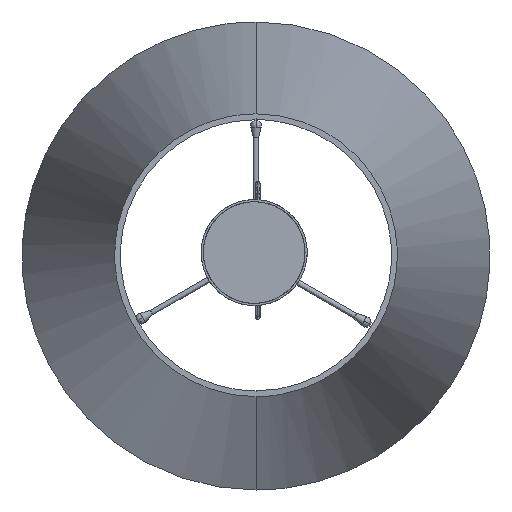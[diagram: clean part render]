
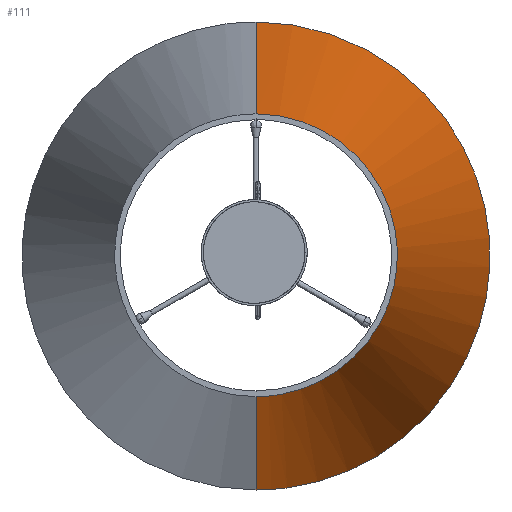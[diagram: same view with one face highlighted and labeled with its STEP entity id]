
A CAD part, top view. The second image highlights one B-rep face of the part: STEP entity #111.
In plain terms, the highlighted free-form (B-spline) face has degree [2, 1] with [5, 2] control points.
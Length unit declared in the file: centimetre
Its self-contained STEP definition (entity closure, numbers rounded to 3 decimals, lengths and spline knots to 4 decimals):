
#111=ADVANCED_FACE('',(#319),#2949,.T.);
#319=FACE_OUTER_BOUND('',#529,.T.);
#529=EDGE_LOOP('',(#836,#837,#838,#839));
#836=ORIENTED_EDGE('',*,*,#1730,.T.);
#837=ORIENTED_EDGE('',*,*,#1728,.T.);
#838=ORIENTED_EDGE('',*,*,#1726,.F.);
#839=ORIENTED_EDGE('',*,*,#1736,.F.);
#1726=EDGE_CURVE('',#2657,#2654,#2422,.T.);
#1728=EDGE_CURVE('',#2655,#2654,#2172,.T.);
#1730=EDGE_CURVE('',#2652,#2655,#2425,.T.);
#1736=EDGE_CURVE('',#2652,#2657,#2174,.T.);
#2172=B_SPLINE_CURVE_WITH_KNOTS('',1,(#3927,#3928),.UNSPECIFIED.,.F.,.F.,
(2,2),(0.,388.772),.UNSPECIFIED.);
#2174=B_SPLINE_CURVE_WITH_KNOTS('',1,(#3961,#3962),.UNSPECIFIED.,.F.,.F.,
(2,2),(0.,388.772),.UNSPECIFIED.);
#2422=(
BOUNDED_CURVE()
B_SPLINE_CURVE(2,(#3917,#3918,#3919,#3920,#3921),.UNSPECIFIED.,.F.,.F.)
B_SPLINE_CURVE_WITH_KNOTS((3,2,3),(-651.8805,-325.9402,
0.),.UNSPECIFIED.)
CURVE()
GEOMETRIC_REPRESENTATION_ITEM()
RATIONAL_B_SPLINE_CURVE((1.,0.707,1.,0.707,1.))
REPRESENTATION_ITEM('')
);
#2425=(
BOUNDED_CURVE()
B_SPLINE_CURVE(2,(#3934,#3935,#3936,#3937,#3938),.UNSPECIFIED.,.F.,.F.)
B_SPLINE_CURVE_WITH_KNOTS((3,2,3),(393.8079,590.7118,787.6158),
 .UNSPECIFIED.)
CURVE()
GEOMETRIC_REPRESENTATION_ITEM()
RATIONAL_B_SPLINE_CURVE((1.,0.707,1.,0.707,1.))
REPRESENTATION_ITEM('')
);
#2652=VERTEX_POINT('',#3909);
#2654=VERTEX_POINT('',#3911);
#2655=VERTEX_POINT('',#3912);
#2657=VERTEX_POINT('',#3914);
#2949=(
BOUNDED_SURFACE()
B_SPLINE_SURFACE(2,1,((#3889,#3890),(#3891,#3892),(#3893,#3894),(#3895,
#3896),(#3897,#3898)),.UNSPECIFIED.,.F.,.F.,.F.)
B_SPLINE_SURFACE_WITH_KNOTS((3,2,3),(2,2),(651.8805,977.8207,
1303.761),(0.,388.772),.UNSPECIFIED.)
GEOMETRIC_REPRESENTATION_ITEM()
RATIONAL_B_SPLINE_SURFACE(((1.,1.),(0.707,0.707),
(1.,1.),(0.707,0.707),(1.,1.)))
REPRESENTATION_ITEM('')
SURFACE()
);
#3889=CARTESIAN_POINT('',(1.61,538.6515,-634.4665));
#3890=CARTESIAN_POINT('',(1.61,620.7986,-1014.4606));
#3891=CARTESIAN_POINT('',(126.9629,538.6515,-634.4665));
#3892=CARTESIAN_POINT('',(209.11,620.7986,-1014.4606));
#3893=CARTESIAN_POINT('',(126.9629,413.2986,-634.4665));
#3894=CARTESIAN_POINT('',(209.11,413.2986,-1014.4606));
#3895=CARTESIAN_POINT('',(126.9629,287.9457,-634.4665));
#3896=CARTESIAN_POINT('',(209.11,205.7986,-1014.4606));
#3897=CARTESIAN_POINT('',(1.61,287.9457,-634.4665));
#3898=CARTESIAN_POINT('',(1.61,205.7986,-1014.4606));
#3909=CARTESIAN_POINT('',(1.61,538.6515,-634.4665));
#3911=CARTESIAN_POINT('',(1.61,205.7986,-1014.4606));
#3912=CARTESIAN_POINT('',(1.61,287.9457,-634.4665));
#3914=CARTESIAN_POINT('',(1.61,620.7986,-1014.4606));
#3917=CARTESIAN_POINT('',(1.61,620.7986,-1014.4606));
#3918=CARTESIAN_POINT('',(209.11,620.7986,-1014.4606));
#3919=CARTESIAN_POINT('',(209.11,413.2986,-1014.4606));
#3920=CARTESIAN_POINT('',(209.11,205.7986,-1014.4606));
#3921=CARTESIAN_POINT('',(1.61,205.7986,-1014.4606));
#3927=CARTESIAN_POINT('',(1.61,287.9457,-634.4665));
#3928=CARTESIAN_POINT('',(1.61,205.7986,-1014.4606));
#3934=CARTESIAN_POINT('',(1.61,538.6515,-634.4665));
#3935=CARTESIAN_POINT('',(126.9629,538.6515,-634.4665));
#3936=CARTESIAN_POINT('',(126.9629,413.2986,-634.4665));
#3937=CARTESIAN_POINT('',(126.9629,287.9457,-634.4665));
#3938=CARTESIAN_POINT('',(1.61,287.9457,-634.4665));
#3961=CARTESIAN_POINT('',(1.61,538.6515,-634.4665));
#3962=CARTESIAN_POINT('',(1.61,620.7986,-1014.4606));
